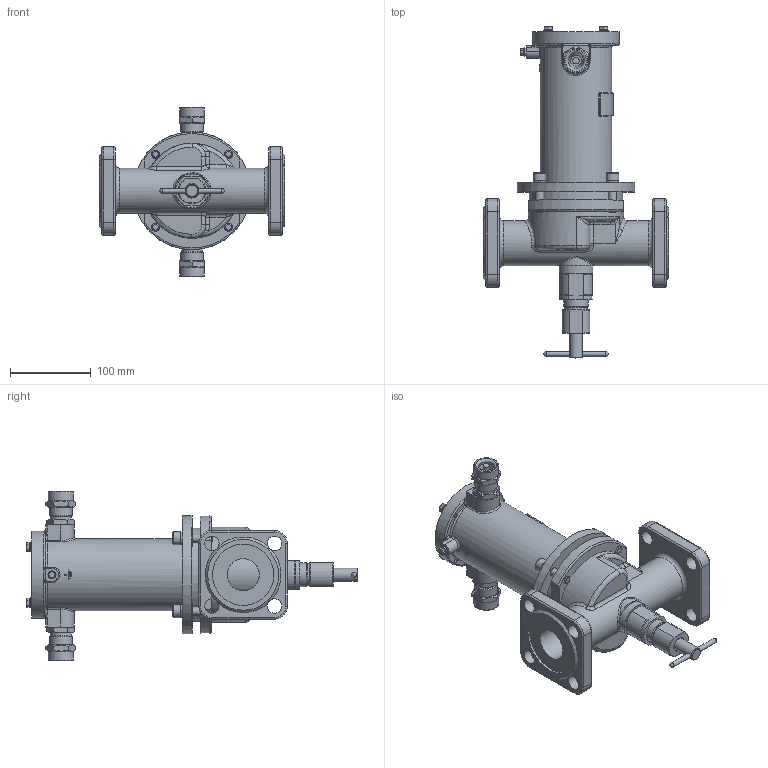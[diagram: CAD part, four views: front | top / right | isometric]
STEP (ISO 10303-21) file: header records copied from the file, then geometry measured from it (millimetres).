
FILE_DESCRIPTION(('STEP AP203'), '1');
FILE_NAME('ÑÅÍÑ DN40PN25-ÍÎ.stp', '2018-09-19T08:38:53', ('Îðëîâ Å.Â.'), ('ÎÎÎ ÍÏÏ Ñåíñîð'), 'ASCON STEP Converter 1.3', 'Kompas 3D', '');
FILE_SCHEMA(('CONFIG_CONTROL_DESIGN','SUPPORT_RESOURCE_SCHEMA'));
Length unit declared in the file: millimetre
Products named in the file (1): 24
Bounding box: 230 x 412 x 211 mm (x, y, z)
Volume: 1603185.6 mm3; surface area: 399088.5 mm2
Topology: 2 solids, 21 shells, 1985 faces, 5265 edges, 3397 vertices
Faces by surface type: cylinder 1010, plane 726, cone 131, torus 50, bspline 48, extrusion 16, sphere 4
Full cylindrical faces by diameter (mm): 3.5 x2, 4.134 x1, 4.917 x4, 5 x1, 6 x10, 6.5 x4, 7 x2, 8 x8, 10 x9, 11 x4, 12 x4, 13 x2, 16 x6, 17 x2, 18 x9, 20 x5, 22 x2, 22.376 x2, 23 x1, 23.5 x2, 24 x2, 24.5 x2, 26 x4, 26.376 x2, 27.8 x1, 28 x3, 28.5 x2, 30 x2, 31 x2, 40 x2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
Entity records: 77395 total; most frequent: CARTESIAN_POINT 27026, DIRECTION 10928, ORIENTED_EDGE 10468, EDGE_CURVE 5234, AXIS2_PLACEMENT_3D 4196, VERTEX_POINT 3397, VECTOR 2536, LINE 2520
